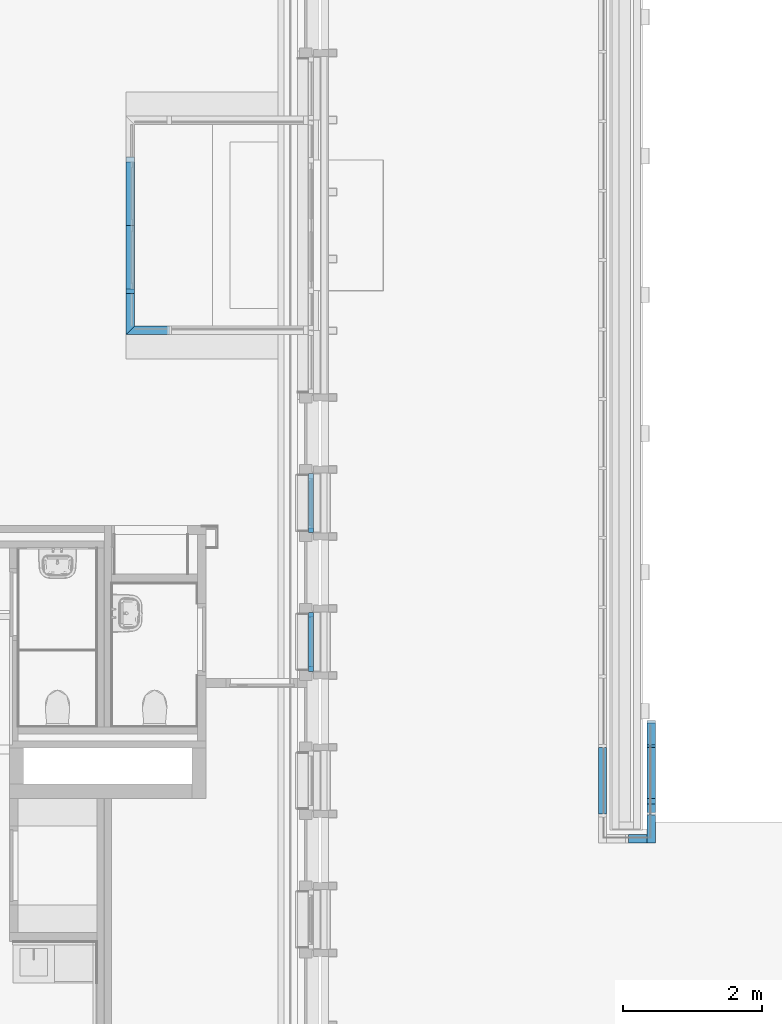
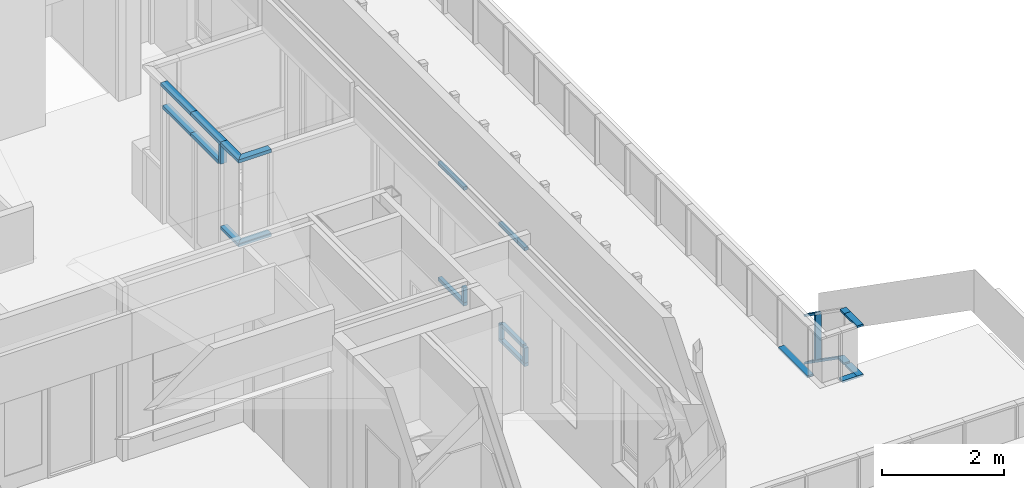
# One storey, part 11 of 118: 27 members, 8 elements without a shape of their own.
"""IFC2X3 building model written with IfcOpenShell, lengths in millimetres."""

from ifc_helpers import new_model, entity, si_unit, converted_unit, derived_unit, direction, frame, origin, origin_2d_with_axis, place, context, subcontext, project, spatial, rectangle, extrude, clip, halfspace, source, transform, mapped, material, material_list, type_object, type_shapes, element, aggregate, save


model = new_model("IFC2X3")

# Units and contexts
model_context = context("Model", 3, precision=0.01, world=origin(), true_north=direction((6.123031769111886e-17, 1.0)))
plan_context = context("Plan", 3, precision=0.01, world=origin(), true_north=direction((6.123031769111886e-17, 1.0)))
body_context = subcontext(model_context, "Body", "Model", "MODEL_VIEW")
ifc_project = project(units=[si_unit("LENGTHUNIT", "METRE", prefix="MILLI"), si_unit("AREAUNIT", "SQUARE_METRE"), si_unit("VOLUMEUNIT", "CUBIC_METRE"), converted_unit("PLANEANGLEUNIT", "DEGREE", entity("IfcRatioMeasure", 0.017453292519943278), si_unit("PLANEANGLEUNIT", "RADIAN"), dimensions=[0, 0, 0, 0, 0, 0, 0]), si_unit("MASSUNIT", "GRAM", prefix="KILO"), derived_unit("MASSDENSITYUNIT", [(si_unit("MASSUNIT", "GRAM", prefix="KILO"), 1), (si_unit("LENGTHUNIT", "METRE"), -3)]), derived_unit("IONCONCENTRATIONUNIT", [(si_unit("MASSUNIT", "GRAM", prefix="KILO"), 1), (si_unit("LENGTHUNIT", "METRE"), -3)]), derived_unit("MOMENTOFINERTIAUNIT", [(si_unit("LENGTHUNIT", "METRE"), 4)]), si_unit("TIMEUNIT", "SECOND"), si_unit("FREQUENCYUNIT", "HERTZ"), si_unit("THERMODYNAMICTEMPERATUREUNIT", "DEGREE_CELSIUS"), derived_unit("THERMALTRANSMITTANCEUNIT", [(si_unit("MASSUNIT", "GRAM", prefix="KILO"), 1), (si_unit("THERMODYNAMICTEMPERATUREUNIT", "KELVIN"), -1), (si_unit("TIMEUNIT", "SECOND"), -3)]), derived_unit("THERMALCONDUCTANCEUNIT", [(si_unit("MASSUNIT", "GRAM", prefix="KILO"), 1), (si_unit("THERMODYNAMICTEMPERATUREUNIT", "KELVIN"), -1), (si_unit("TIMEUNIT", "SECOND"), -3), (si_unit("LENGTHUNIT", "METRE"), 1)]), derived_unit("VOLUMETRICFLOWRATEUNIT", [(si_unit("LENGTHUNIT", "METRE"), 3), (si_unit("TIMEUNIT", "SECOND"), -1)]), derived_unit("MASSFLOWRATEUNIT", [(si_unit("MASSUNIT", "GRAM", prefix="KILO"), 1), (si_unit("TIMEUNIT", "SECOND"), -1)]), derived_unit("ROTATIONALFREQUENCYUNIT", [(si_unit("TIMEUNIT", "SECOND"), -1)]), si_unit("ELECTRICCURRENTUNIT", "AMPERE"), si_unit("ELECTRICVOLTAGEUNIT", "VOLT"), si_unit("POWERUNIT", "WATT"), si_unit("FORCEUNIT", "NEWTON", prefix="KILO"), si_unit("ILLUMINANCEUNIT", "LUX"), si_unit("LUMINOUSFLUXUNIT", "LUMEN"), si_unit("LUMINOUSINTENSITYUNIT", "CANDELA"), derived_unit("USERDEFINED", [(si_unit("MASSUNIT", "GRAM", prefix="KILO"), -1), (si_unit("LENGTHUNIT", "METRE"), -2), (si_unit("TIMEUNIT", "SECOND"), 3), (si_unit("LUMINOUSFLUXUNIT", "LUMEN"), 1)]), derived_unit("USERDEFINED", [(si_unit("MASSUNIT", "GRAM", prefix="KILO"), 1), (si_unit("TIMEUNIT", "SECOND"), -3), (si_unit("LENGTHUNIT", "METRE"), 3), (si_unit("ELECTRICCURRENTUNIT", "AMPERE"), -2)]), derived_unit("SOUNDPOWERUNIT", [(si_unit("MASSUNIT", "GRAM", prefix="KILO"), 1), (si_unit("TIMEUNIT", "SECOND"), -3), (si_unit("LENGTHUNIT", "METRE"), 2)]), derived_unit("SOUNDPRESSUREUNIT", [(si_unit("MASSUNIT", "GRAM", prefix="KILO"), 1), (si_unit("LENGTHUNIT", "METRE"), -1), (si_unit("TIMEUNIT", "SECOND"), -2)]), derived_unit("LINEARVELOCITYUNIT", [(si_unit("LENGTHUNIT", "METRE"), 1), (si_unit("TIMEUNIT", "SECOND"), -1)]), si_unit("PRESSUREUNIT", "PASCAL"), derived_unit("USERDEFINED", [(si_unit("MASSUNIT", "GRAM", prefix="KILO"), 1), (si_unit("LENGTHUNIT", "METRE"), -2), (si_unit("TIMEUNIT", "SECOND"), -2)]), derived_unit("LINEARFORCEUNIT", [(si_unit("MASSUNIT", "GRAM", prefix="KILO"), 1), (si_unit("TIMEUNIT", "SECOND"), -2)]), derived_unit("PLANARFORCEUNIT", [(si_unit("MASSUNIT", "GRAM", prefix="KILO"), 1), (si_unit("LENGTHUNIT", "METRE"), -1), (si_unit("TIMEUNIT", "SECOND"), -2)]), derived_unit("SPECIFICHEATCAPACITYUNIT", [(si_unit("THERMODYNAMICTEMPERATUREUNIT", "KELVIN"), -1), (si_unit("LENGTHUNIT", "METRE"), 2), (si_unit("TIMEUNIT", "SECOND"), -2)]), derived_unit("HEATINGVALUEUNIT", [(si_unit("LENGTHUNIT", "METRE"), 2), (si_unit("TIMEUNIT", "SECOND"), -2)]), derived_unit("VAPORPERMEABILITYUNIT", [(si_unit("LENGTHUNIT", "METRE"), -1), (si_unit("TIMEUNIT", "SECOND"), 1)]), derived_unit("DYNAMICVISCOSITYUNIT", [(si_unit("MASSUNIT", "GRAM", prefix="KILO"), 1), (si_unit("TIMEUNIT", "SECOND"), -1), (si_unit("LENGTHUNIT", "METRE"), -1)]), derived_unit("THERMALEXPANSIONCOEFFICIENTUNIT", [(si_unit("THERMODYNAMICTEMPERATUREUNIT", "KELVIN"), -1)]), derived_unit("MODULUSOFELASTICITYUNIT", [(si_unit("MASSUNIT", "GRAM", prefix="KILO"), 1), (si_unit("LENGTHUNIT", "METRE"), -1), (si_unit("TIMEUNIT", "SECOND"), -2)]), derived_unit("ISOTHERMALMOISTURECAPACITYUNIT", [(si_unit("LENGTHUNIT", "METRE"), 3), (si_unit("MASSUNIT", "GRAM", prefix="KILO"), -1)]), derived_unit("MOISTUREDIFFUSIVITYUNIT", [(si_unit("TIMEUNIT", "SECOND"), -1), (si_unit("LENGTHUNIT", "METRE"), 2)])], contexts=[model_context, plan_context])

# Site, building, storey
site_placement = place(None, origin())
site = spatial("IfcSite", under=ifc_project, at=site_placement, Name="Locatie", CompositionType="ELEMENT")
building_placement = place(site_placement, origin())
building = spatial("IfcBuilding", under=site, at=building_placement, Name="Bouwwerk", CompositionType="ELEMENT")
storey_placement = place(building_placement, frame((0.0, 0.0, 7800.0)))
storey = spatial("IfcBuildingStorey", under=building, at=storey_placement, Name="02 tweede verdieping", CompositionType="ELEMENT", Elevation=7800.000000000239)

# Curtain wall, member
curtain_wall_type_1 = type_object("IfcCurtainWallType", Name="Curtain Wall:NLRS_21_CW_Ontwerpkozijn_aluminium_RT72", PredefinedType="NOTDEFINED")
curtain_wall_1_placement = place(storey_placement, frame((0.0, 0.0, -7800.0)))
curtain_wall_1 = element("IfcCurtainWall", 1, at=curtain_wall_1_placement, inside=storey, type_object=curtain_wall_type_1, Name="Curtain Wall:NLRS_21_CW_Ontwerpkozijn_aluminium_RT72", ObjectType="Curtain Wall:NLRS_21_CW_Ontwerpkozijn_aluminium_RT72")
ifc_material_1 = material(Name="a_kozijn")
ifc_material_2 = material(Name="<Unnamed>")
ifc_material_list = material_list([ifc_material_2, ifc_material_1])
member_type_1 = type_object("IfcMemberType", Name="Rectangular Mullion:RT72_Vb_raam", PredefinedType="MULLION", material=ifc_material_list)
shared_shape_1 = source(origin(), body_context, "Body", "SweptSolid", [
    extrude(rectangle(XDim=71.99999999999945, YDim=68.00000000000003, at=origin_2d_with_axis()), frame((-34.0, -36.0, -850.0), z_axis=(0.0, 0.0, 1.0), x_axis=(0.0, -1.0, 0.0)), (0.0, 0.0, 1.0), 850.0000000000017),
])
type_shapes(member_type_1, [shared_shape_1])
member_1_placement = place(curtain_wall_1_placement, frame((34753.0, 15775.0, 10863.0), z_axis=(0.0, -1.0, 0.0), x_axis=(0.0, 0.0, 1.0)))
member_1 = element("IfcMember", 2, at=member_1_placement, type_object=member_type_1, material=ifc_material_1, Name="Rectangular Mullion:RT72_Vb_raam", ObjectType="Rectangular Mullion:RT72_Vb_raam", context=body_context, shape_type="MappedRepresentation", body=[
    mapped(shared_shape_1, transform((0.0, 0.0, 0.0), scale=1.0)),
])

curtain_wall_2_placement = place(storey_placement, frame((0.0, 0.0, -7800.0)))
curtain_wall_2 = element("IfcCurtainWall", 3, at=curtain_wall_2_placement, inside=storey, type_object=curtain_wall_type_1, Name="Curtain Wall:NLRS_21_CW_Ontwerpkozijn_aluminium_RT72", ObjectType="Curtain Wall:NLRS_21_CW_Ontwerpkozijn_aluminium_RT72")
member_2_placement = place(curtain_wall_2_placement, frame((34753.0, 17775.0, 10863.0), z_axis=(0.0, -1.0, 0.0), x_axis=(0.0, 0.0, 1.0)))
member_2 = element("IfcMember", 4, at=member_2_placement, type_object=member_type_1, material=ifc_material_1, Name="Rectangular Mullion:RT72_Vb_raam", ObjectType="Rectangular Mullion:RT72_Vb_raam", context=body_context, shape_type="MappedRepresentation", body=[
    mapped(shared_shape_1, transform((0.0, 0.0, 0.0), scale=1.0)),
])

# Member
member_type_2 = type_object("IfcMemberType", Name="Rectangular Mullion:RT72_Vo_raam", PredefinedType="MULLION", material=ifc_material_list)
shared_shape_2 = source(origin(), body_context, "Body", "SweptSolid", [
    extrude(rectangle(XDim=71.99999999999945, YDim=68.00000000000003, at=origin_2d_with_axis()), frame((-34.0, -36.0, -850.0), z_axis=(0.0, 0.0, 1.0), x_axis=(0.0, -1.0, 0.0)), (0.0, 0.0, 1.0), 850.0000000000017),
])
type_shapes(member_type_2, [shared_shape_2])
member_3_placement = place(curtain_wall_1_placement, frame((34753.0, 16625.0, 8473.0), z_axis=(0.0, 1.0, 0.0), x_axis=(0.0, 0.0, -1.0)))
member_3 = element("IfcMember", 5, at=member_3_placement, type_object=member_type_2, material=ifc_material_1, Name="Rectangular Mullion:RT72_Vo_raam", ObjectType="Rectangular Mullion:RT72_Vo_raam", context=body_context, shape_type="MappedRepresentation", body=[
    mapped(shared_shape_2, transform((0.0, 0.0, 0.0), scale=1.0)),
])

member_4_placement = place(curtain_wall_2_placement, frame((34753.0, 18625.0, 8473.0), z_axis=(0.0, 1.0, 0.0), x_axis=(0.0, 0.0, -1.0)))
member_4 = element("IfcMember", 6, at=member_4_placement, type_object=member_type_2, material=ifc_material_1, Name="Rectangular Mullion:RT72_Vo_raam", ObjectType="Rectangular Mullion:RT72_Vo_raam", context=body_context, shape_type="MappedRepresentation", body=[
    mapped(shared_shape_2, transform((0.0, 0.0, 0.0), scale=1.0)),
])

member_type_3 = type_object("IfcMemberType", Name="Rectangular Mullion:RT72_Hl_raam", PredefinedType="MULLION", material=ifc_material_list)
shared_shape_3 = source(origin(), body_context, "Body", "SweptSolid", [
    extrude(rectangle(XDim=71.99999999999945, YDim=68.00000000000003, at=origin_2d_with_axis()), frame((-34.0, -36.0, -301.0), z_axis=(0.0, 0.0, 1.0), x_axis=(0.0, -1.0, 0.0)), (0.0, 0.0, 1.0), 301.00000000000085),
])
type_shapes(member_type_3, [shared_shape_3])
member_5_placement = place(curtain_wall_1_placement, frame((34753.0, 15775.0, 8541.0), z_axis=(0.0, 0.0, -1.0), x_axis=(0.0, -1.0, 0.0)))
member_5 = element("IfcMember", 7, at=member_5_placement, type_object=member_type_3, material=ifc_material_1, Name="Rectangular Mullion:RT72_Hl_raam", ObjectType="Rectangular Mullion:RT72_Hl_raam", context=body_context, shape_type="MappedRepresentation", body=[
    mapped(shared_shape_3, transform((0.0, 0.0, 0.0), scale=1.0)),
])

member_6_placement = place(curtain_wall_2_placement, frame((34753.0, 17775.0, 8541.0), z_axis=(0.0, 0.0, -1.0), x_axis=(0.0, -1.0, 0.0)))
member_6 = element("IfcMember", 8, at=member_6_placement, type_object=member_type_3, material=ifc_material_1, Name="Rectangular Mullion:RT72_Hl_raam", ObjectType="Rectangular Mullion:RT72_Hl_raam", context=body_context, shape_type="MappedRepresentation", body=[
    mapped(shared_shape_3, transform((0.0, 0.0, 0.0), scale=1.0)),
])

aggregate(curtain_wall_2, [member_2, member_4, member_6])

member_type_4 = type_object("IfcMemberType", Name="Rectangular Mullion:RT72_Hr_raam", PredefinedType="MULLION", material=ifc_material_list)
shared_shape_4 = source(origin(), body_context, "Body", "SweptSolid", [
    extrude(rectangle(XDim=71.99999999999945, YDim=68.00000000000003, at=origin_2d_with_axis()), frame((-34.0, -36.0, -301.0), z_axis=(0.0, 0.0, 1.0), x_axis=(0.0, -1.0, 0.0)), (0.0, 0.0, 1.0), 301.00000000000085),
])
type_shapes(member_type_4, [shared_shape_4])
member_7_placement = place(curtain_wall_1_placement, frame((34753.0, 16625.0, 8842.0), z_axis=(0.0, 0.0, 1.0), x_axis=(0.0, 1.0, 0.0)))
member_7 = element("IfcMember", 9, at=member_7_placement, type_object=member_type_4, material=ifc_material_1, Name="Rectangular Mullion:RT72_Hr_raam", ObjectType="Rectangular Mullion:RT72_Hr_raam", context=body_context, shape_type="MappedRepresentation", body=[
    mapped(shared_shape_4, transform((0.0, 0.0, 0.0), scale=1.0)),
])

member_type_5 = type_object("IfcMemberType", Name="Rectangular Mullion:RT72_Vb_raam", PredefinedType="MULLION", material=ifc_material_list)
shared_shape_5 = source(origin(), body_context, "Body", "SweptSolid", [
    extrude(rectangle(XDim=71.99999999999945, YDim=68.00000000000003, at=origin_2d_with_axis()), frame((0.0, -36.0, -714.0), z_axis=(0.0, 0.0, 1.0), x_axis=(0.0, -1.0, 0.0)), (0.0, 0.0, 1.0), 714.0000000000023),
])
type_shapes(member_type_5, [shared_shape_5])
member_8_placement = place(curtain_wall_1_placement, frame((34753.0, 15843.0, 8842.0), z_axis=(0.0, -1.0, 0.0), x_axis=(0.0, 0.0, 1.0)))
member_8 = element("IfcMember", 10, at=member_8_placement, type_object=member_type_5, material=ifc_material_1, Name="Rectangular Mullion:RT72_Vb_raam", ObjectType="Rectangular Mullion:RT72_Vb_raam", context=body_context, shape_type="MappedRepresentation", body=[
    mapped(shared_shape_5, transform((0.0, 0.0, 0.0), scale=1.0)),
])

aggregate(curtain_wall_1, [member_1, member_3, member_5, member_7, member_8])

# Curtain wall, members
curtain_wall_type_2 = type_object("IfcCurtainWallType", Name="Curtain Wall:32_ontwerpkozijn binnen 125*67", PredefinedType="NOTDEFINED")
curtain_wall_3_placement = place(storey_placement, frame((0.0, 0.0, -7800.0)))
curtain_wall_3 = element("IfcCurtainWall", 11, at=curtain_wall_3_placement, inside=storey, type_object=curtain_wall_type_2, Name="Curtain Wall:32_ontwerpkozijn binnen 125*67", ObjectType="Curtain Wall:32_ontwerpkozijn binnen 125*67")
ifc_material_3 = material(Name="RAL 9010 - wit")
member_type_6 = type_object("IfcMemberType", Name="Rectangular Mullion:67x125", PredefinedType="MULLION", material=ifc_material_3)
shared_shape_6 = source(origin(), body_context, "Body", "SweptSolid", [
    extrude(rectangle(XDim=125.00000000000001, YDim=67.0, at=origin_2d_with_axis()), frame((-33.5, 62.50000000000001, -983.0), z_axis=(0.0, 0.0, 1.0), x_axis=(0.0, -1.0, 0.0)), (0.0, 0.0, 1.0), 983.0000000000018),
])
type_shapes(member_type_6, [shared_shape_6])
member_9_placement = place(curtain_wall_3_placement, frame((32250.0, 21217.0, 10600.0), z_axis=(0.0, -1.0, 0.0), x_axis=(0.0, 0.0, 1.0)))
member_9 = element("IfcMember", 12, at=member_9_placement, type_object=member_type_6, material=ifc_material_3, Name="Rectangular Mullion:67x125", ObjectType="Rectangular Mullion:67x125", context=body_context, shape_type="MappedRepresentation", body=[
    mapped(shared_shape_6, transform((0.0, 0.0, 0.0), scale=1.0)),
])
member_type_7 = type_object("IfcMemberType", Name="Rectangular Mullion:67x125", PredefinedType="MULLION", material=ifc_material_3)
shared_shape_7 = source(origin(), body_context, "Body", "SweptSolid", [
    extrude(rectangle(XDim=125.00000000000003, YDim=67.0, at=origin_2d_with_axis()), frame((-33.5, 62.500000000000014, -983.0), z_axis=(0.0, 0.0, 1.0), x_axis=(0.0, -1.0, 0.0)), (0.0, 0.0, 1.0), 983.0000000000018),
])
type_shapes(member_type_7, [shared_shape_7])
member_10_placement = place(curtain_wall_3_placement, frame((32250.0, 22200.0, 10600.0), z_axis=(0.0, -1.0, 0.0), x_axis=(0.0, 0.0, 1.0)))
member_10 = element("IfcMember", 13, at=member_10_placement, type_object=member_type_7, material=ifc_material_3, Name="Rectangular Mullion:67x125", ObjectType="Rectangular Mullion:67x125", context=body_context, shape_type="MappedRepresentation", body=[
    mapped(shared_shape_7, transform((0.0, 0.0, 0.0), scale=1.0)),
])
member_type_8 = type_object("IfcMemberType", Name="Rectangular Mullion:67x125", PredefinedType="MULLION", material=ifc_material_3)
shared_shape_8 = source(origin(), body_context, "Body", "SweptSolid", [
    extrude(rectangle(XDim=125.00000000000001, YDim=67.0, at=origin_2d_with_axis()), frame((-33.5, 62.50000000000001, -379.50000000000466), z_axis=(0.0, 0.0, 1.0), x_axis=(0.0, -1.0, 0.0)), (0.0, 0.0, 1.0), 379.50000000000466),
])
type_shapes(member_type_8, [shared_shape_8])
member_11_placement = place(curtain_wall_3_placement, frame((32250.0, 21217.0, 10153.499999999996), z_axis=(0.0, 0.0, -1.0), x_axis=(0.0, -1.0, 0.0)))
member_11 = element("IfcMember", 14, at=member_11_placement, type_object=member_type_8, material=ifc_material_3, Name="Rectangular Mullion:67x125", ObjectType="Rectangular Mullion:67x125", context=body_context, shape_type="MappedRepresentation", body=[
    mapped(shared_shape_8, transform((0.0, 0.0, 0.0), scale=1.0)),
])
member_type_9 = type_object("IfcMemberType", Name="Rectangular Mullion:67x125", PredefinedType="MULLION", material=ifc_material_3)
shared_shape_9 = source(origin(), body_context, "Body", "SweptSolid", [
    extrude(rectangle(XDim=125.00000000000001, YDim=67.0, at=origin_2d_with_axis()), frame((0.0, 62.50000000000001, -916.0), z_axis=(0.0, 0.0, 1.0), x_axis=(0.0, -1.0, 0.0)), (0.0, 0.0, 1.0), 916.0000000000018),
])
type_shapes(member_type_9, [shared_shape_9])
member_12_placement = place(curtain_wall_3_placement, frame((32250.0, 22200.0, 10153.499999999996), z_axis=(0.0, -1.0, 0.0), x_axis=(0.0, 0.0, 1.0)))
member_12 = element("IfcMember", 15, at=member_12_placement, type_object=member_type_9, material=ifc_material_3, Name="Rectangular Mullion:67x125", ObjectType="Rectangular Mullion:67x125", context=body_context, shape_type="MappedRepresentation", body=[
    mapped(shared_shape_9, transform((0.0, 0.0, 0.0), scale=1.0)),
])
member_type_10 = type_object("IfcMemberType", Name="Rectangular Mullion:67x125", PredefinedType="MULLION", material=ifc_material_3)
shared_shape_10 = source(origin(), body_context, "Body", "SweptSolid", [
    extrude(rectangle(XDim=125.00000000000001, YDim=67.0, at=origin_2d_with_axis()), frame((0.0, 62.50000000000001, -916.0), z_axis=(0.0, 0.0, 1.0), x_axis=(0.0, -1.0, 0.0)), (0.0, 0.0, 1.0), 916.0000000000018),
])
type_shapes(member_type_10, [shared_shape_10])
member_13_placement = place(curtain_wall_3_placement, frame((32250.0, 21284.0, 10153.499999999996), z_axis=(0.0, -1.0, 0.0), x_axis=(0.0, 0.0, 1.0)))
member_13 = element("IfcMember", 16, at=member_13_placement, type_object=member_type_10, material=ifc_material_3, Name="Rectangular Mullion:67x125", ObjectType="Rectangular Mullion:67x125", context=body_context, shape_type="MappedRepresentation", body=[
    mapped(shared_shape_10, transform((0.0, 0.0, 0.0), scale=1.0)),
])
aggregate(curtain_wall_3, [member_9, member_10, member_11, member_12, member_13])

curtain_wall_4_placement = place(storey_placement, frame((0.0, 0.0, -7800.0)))
curtain_wall_4 = element("IfcCurtainWall", 17, at=curtain_wall_4_placement, inside=storey, type_object=curtain_wall_type_2, Name="Curtain Wall:32_ontwerpkozijn binnen 125*67", ObjectType="Curtain Wall:32_ontwerpkozijn binnen 125*67")
member_type_11 = type_object("IfcMemberType", Name="Rectangular Mullion:67x125", PredefinedType="MULLION", material=ifc_material_3)
shared_shape_11 = source(origin(), body_context, "Body", "SweptSolid", [
    clip(extrude(rectangle(XDim=125.00000000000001, YDim=67.0, at=origin_2d_with_axis()), frame((-33.5, -62.50000000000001, -592.0), z_axis=(0.0, 0.0, 1.0), x_axis=(0.0, -1.0, 0.0)), (0.0, 0.0, 1.0), 592.0000000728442), halfspace(frame((-304.8, 0.0, -467.0), z_axis=(0.0, 0.7071067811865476, -0.7071067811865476), x_axis=(0.0, 0.7071067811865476, 0.7071067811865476)), False)),
])
type_shapes(member_type_11, [shared_shape_11])
member_14_placement = place(curtain_wall_4_placement, frame((32250.0, 21217.0, 10600.0), z_axis=(0.0, 1.0, 0.0), x_axis=(0.0, 0.0, 1.0)))
member_14 = element("IfcMember", 18, at=member_14_placement, type_object=member_type_11, material=ifc_material_3, Name="Rectangular Mullion:67x125", ObjectType="Rectangular Mullion:67x125", context=body_context, shape_type="MappedRepresentation", body=[
    mapped(shared_shape_11, transform((0.0, 0.0, 0.0), scale=1.0)),
])
member_type_12 = type_object("IfcMemberType", Name="Rectangular Mullion:67x125", PredefinedType="MULLION", material=ifc_material_3)
shared_shape_12 = source(origin(), body_context, "Body", "SweptSolid", [
    clip(extrude(rectangle(XDim=125.00000000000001, YDim=67.0, at=origin_2d_with_axis()), frame((-33.5, -62.50000000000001, -467.0), z_axis=(0.0, 0.0, 1.0), x_axis=(0.0, -1.0, 0.0)), (0.0, 0.0, 1.0), 592.0000000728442), halfspace(frame((-304.8, 0.0, 0.0), z_axis=(0.0, 0.7071067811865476, 0.7071067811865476), x_axis=(0.0, 0.7071067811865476, -0.7071067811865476)), False)),
])
type_shapes(member_type_12, [shared_shape_12])
member_15_placement = place(curtain_wall_4_placement, frame((32250.0, 20750.0, 8850.0), z_axis=(0.0, -1.0, 0.0), x_axis=(0.0, 0.0, -1.0)))
member_15 = element("IfcMember", 19, at=member_15_placement, type_object=member_type_12, material=ifc_material_3, Name="Rectangular Mullion:67x125", ObjectType="Rectangular Mullion:67x125", context=body_context, shape_type="MappedRepresentation", body=[
    mapped(shared_shape_12, transform((0.0, 0.0, 0.0), scale=1.0)),
])
aggregate(curtain_wall_4, [member_14, member_15])

curtain_wall_5_placement = place(storey_placement, frame((0.0, 0.0, -7800.0)))
curtain_wall_5 = element("IfcCurtainWall", 20, at=curtain_wall_5_placement, inside=storey, type_object=curtain_wall_type_2, Name="Curtain Wall:32_ontwerpkozijn binnen 125*67", ObjectType="Curtain Wall:32_ontwerpkozijn binnen 125*67")
member_type_13 = type_object("IfcMemberType", Name="Rectangular Mullion:67x125", PredefinedType="MULLION", material=ifc_material_3)
shared_shape_13 = source(origin(), body_context, "Body", "SweptSolid", [
    clip(extrude(rectangle(XDim=125.00000000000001, YDim=67.0, at=origin_2d_with_axis()), frame((-33.5, -62.50000000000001, -500.4999999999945), z_axis=(0.0, 0.0, 1.0), x_axis=(0.0, -1.0, 0.0)), (0.0, 0.0, 1.0), 625.4999999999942), halfspace(frame((-304.8, 0.0, 0.0), z_axis=(0.0, 0.7071067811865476, 0.7071067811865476), x_axis=(0.0, 0.7071067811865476, -0.7071067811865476)), False)),
])
type_shapes(member_type_13, [shared_shape_13])
member_16_placement = place(curtain_wall_5_placement, frame((32250.0, 20750.0, 10600.0), z_axis=(-1.0, 0.0, 0.0), x_axis=(0.0, 0.0, 1.0)))
member_16 = element("IfcMember", 21, at=member_16_placement, type_object=member_type_13, material=ifc_material_3, Name="Rectangular Mullion:67x125", ObjectType="Rectangular Mullion:67x125", context=body_context, shape_type="MappedRepresentation", body=[
    mapped(shared_shape_13, transform((0.0, 0.0, 0.0), scale=1.0)),
])
member_type_14 = type_object("IfcMemberType", Name="Rectangular Mullion:67x125", PredefinedType="MULLION", material=ifc_material_3)
shared_shape_14 = source(origin(), body_context, "Body", "SweptSolid", [
    clip(extrude(rectangle(XDim=125.00000000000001, YDim=67.0, at=origin_2d_with_axis()), frame((-33.5, -62.50000000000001, -625.4999999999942), z_axis=(0.0, 0.0, 1.0), x_axis=(0.0, -1.0, 0.0)), (0.0, 0.0, 1.0), 625.4999999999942), halfspace(frame((-304.8, 0.0, -500.4999999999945), z_axis=(0.0, 0.7071067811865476, -0.7071067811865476), x_axis=(0.0, 0.7071067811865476, 0.7071067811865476)), False)),
])
type_shapes(member_type_14, [shared_shape_14])
member_17_placement = place(curtain_wall_5_placement, frame((32750.500000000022, 20750.0, 8850.0), z_axis=(1.0, 0.0, 0.0), x_axis=(0.0, 0.0, -1.0)))
member_17 = element("IfcMember", 22, at=member_17_placement, type_object=member_type_14, material=ifc_material_3, Name="Rectangular Mullion:67x125", ObjectType="Rectangular Mullion:67x125", context=body_context, shape_type="MappedRepresentation", body=[
    mapped(shared_shape_14, transform((0.0, 0.0, 0.0), scale=1.0)),
])
aggregate(curtain_wall_5, [member_16, member_17])

# Curtain wall, member
curtain_wall_type_3 = type_object("IfcCurtainWallType", Name="Curtain Wall:railing 120x40", PredefinedType="NOTDEFINED")
curtain_wall_6_placement = place(storey_placement, frame((0.0, 0.0, -7800.0)))
curtain_wall_6 = element("IfcCurtainWall", 23, at=curtain_wall_6_placement, inside=storey, type_object=curtain_wall_type_3, Name="Curtain Wall:railing 120x40", ObjectType="Curtain Wall:railing 120x40")
ifc_material_4 = material(Name="staal")
member_type_15 = type_object("IfcMemberType", Name="Rectangular Mullion:40x120 railing", PredefinedType="MULLION", material=ifc_material_4)
shared_shape_15 = source(origin(), body_context, "Body", "SweptSolid", [
    extrude(rectangle(XDim=120.0, YDim=40.0, at=origin_2d_with_axis()), frame((-20.0, 0.0, -960.0), z_axis=(0.0, 0.0, 1.0), x_axis=(0.0, -1.0, 0.0)), (0.0, 0.0, 1.0), 959.9999999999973),
])
type_shapes(member_type_15, [shared_shape_15])
member_18_placement = place(curtain_wall_6_placement, frame((38990.0, 13720.0, 8033.0), z_axis=(0.0, -1.0, 0.0), x_axis=(0.0, 0.0, -1.0)))
member_18 = element("IfcMember", 24, at=member_18_placement, type_object=member_type_15, material=ifc_material_4, Name="Rectangular Mullion:40x120 railing", ObjectType="Rectangular Mullion:40x120 railing", context=body_context, shape_type="MappedRepresentation", body=[
    mapped(shared_shape_15, transform((0.0, 0.0, 0.0), scale=1.0)),
])
aggregate(curtain_wall_6, [member_18])

# Curtain wall, members
curtain_wall_7_placement = place(storey_placement, frame((0.0, 0.0, -7800.0)))
curtain_wall_7 = element("IfcCurtainWall", 25, at=curtain_wall_7_placement, inside=storey, type_object=curtain_wall_type_3, Name="Curtain Wall:railing 120x40", ObjectType="Curtain Wall:railing 120x40")
member_type_16 = type_object("IfcMemberType", Name="Rectangular Mullion:40x120 railing", PredefinedType="MULLION", material=ifc_material_4)
shared_shape_16 = source(origin(), body_context, "Body", "SweptSolid", [
    extrude(rectangle(XDim=120.0, YDim=40.0, at=origin_2d_with_axis()), frame((-20.0, 0.0, -415.0), z_axis=(0.0, 0.0, 1.0), x_axis=(0.0, -1.0, 0.0)), (0.0, 0.0, 1.0), 414.9999999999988),
])
type_shapes(member_type_16, [shared_shape_16])
member_19_placement = place(curtain_wall_7_placement, frame((39694.57048249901, 13305.0, 9080.0), z_axis=(0.0, -1.0, 0.0), x_axis=(0.0, 0.0, 1.0)))
member_19 = element("IfcMember", 26, at=member_19_placement, type_object=member_type_16, material=ifc_material_4, Name="Rectangular Mullion:40x120 railing", ObjectType="Rectangular Mullion:40x120 railing", context=body_context, shape_type="MappedRepresentation", body=[
    mapped(shared_shape_16, transform((0.0, 0.0, 0.0), scale=1.0)),
])
member_type_17 = type_object("IfcMemberType", Name="Rectangular Mullion:40x120 railing", PredefinedType="MULLION", material=ifc_material_4)
shared_shape_17 = source(origin(), body_context, "Body", "SweptSolid", [
    clip(extrude(rectangle(XDim=120.0, YDim=40.0, at=origin_2d_with_axis()), frame((-20.0, 0.0, -192.0678533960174), z_axis=(0.0, 0.0, 1.0), x_axis=(0.0, -1.0, 0.0)), (0.0, 0.0, 1.0), 204.6524040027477), halfspace(frame((0.0, 304.8, 0.0), z_axis=(0.30011138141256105, 0.0, 0.953904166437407), x_axis=(0.953904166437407, 0.0, -0.30011138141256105)), False)),
])
type_shapes(member_type_17, [shared_shape_17])
member_20_placement = place(curtain_wall_7_placement, frame((39694.57048249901, 13932.067853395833, 8033.0), z_axis=(0.0, 1.0, 0.0), x_axis=(0.0, 0.0, -1.0)))
member_20 = element("IfcMember", 27, at=member_20_placement, type_object=member_type_17, material=ifc_material_4, Name="Rectangular Mullion:40x120 railing", ObjectType="Rectangular Mullion:40x120 railing", context=body_context, shape_type="MappedRepresentation", body=[
    mapped(shared_shape_17, transform((0.0, 0.0, 0.0), scale=1.0)),
])
member_type_18 = type_object("IfcMemberType", Name="Rectangular Mullion:40x120 railing", PredefinedType="MULLION", material=ifc_material_4)
shared_shape_18 = source(origin(), body_context, "Body", "SweptSolid", [
    clip(extrude(rectangle(XDim=120.0, YDim=40.0, at=origin_2d_with_axis()), frame((-20.0, 0.0, -145.0), z_axis=(0.0, 0.0, 1.0), x_axis=(0.0, -1.0, 0.0)), (0.0, 0.0, 1.0), 145.00000000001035), halfspace(frame((0.0, -304.8, -145.0), z_axis=(-0.300111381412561, 0.0, -0.953904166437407), x_axis=(-0.953904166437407, 0.0, 0.300111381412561)), False)),
])
type_shapes(member_type_18, [shared_shape_18])
member_21_placement = place(curtain_wall_7_placement, frame((39694.57048249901, 13720.0, 9080.0), z_axis=(0.0, -1.0, 0.0), x_axis=(0.0, 0.0, 1.0)))
member_21 = element("IfcMember", 28, at=member_21_placement, type_object=member_type_18, material=ifc_material_4, Name="Rectangular Mullion:40x120 railing", ObjectType="Rectangular Mullion:40x120 railing", context=body_context, shape_type="MappedRepresentation", body=[
    mapped(shared_shape_18, transform((0.0, 0.0, 0.0), scale=1.0)),
])
member_type_19 = type_object("IfcMemberType", Name="Rectangular Mullion:40x120 railing", PredefinedType="MULLION", material=ifc_material_4)
shared_shape_19 = source(origin(), body_context, "Body", "SweptSolid", [
    extrude(rectangle(XDim=120.0, YDim=40.0, at=origin_2d_with_axis()), frame((-20.0, 0.0, -395.0), z_axis=(0.0, 0.0, 1.0), x_axis=(0.0, -1.0, 0.0)), (0.0, 0.0, 1.0), 394.999999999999),
])
type_shapes(member_type_19, [shared_shape_19])
member_22_placement = place(curtain_wall_7_placement, frame((39694.57048249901, 13700.0, 8033.0), z_axis=(0.0, 1.0, 0.0), x_axis=(0.0, 0.0, -1.0)))
member_22 = element("IfcMember", 29, at=member_22_placement, type_object=member_type_19, material=ifc_material_4, Name="Rectangular Mullion:40x120 railing", ObjectType="Rectangular Mullion:40x120 railing", context=body_context, shape_type="MappedRepresentation", body=[
    mapped(shared_shape_19, transform((0.0, 0.0, 0.0), scale=1.0)),
])
member_type_20 = type_object("IfcMemberType", Name="Rectangular Mullion:40x120 railing", PredefinedType="MULLION", material=ifc_material_4)
shared_shape_20 = source(origin(), body_context, "Body", "SweptSolid", [
    clip(clip(extrude(rectangle(XDim=120.0, YDim=40.0, at=origin_2d_with_axis()), frame((0.0, 0.0, -965.3416453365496), z_axis=(0.0, 0.0, 1.0), x_axis=(0.0, -1.0, 0.0)), (0.0, 0.0, 1.0), 930.5202366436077), halfspace(frame((22.902199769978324, 60.0, -967.3684013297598), z_axis=(-0.5725549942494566, 0.0, -0.819866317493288), x_axis=(-0.819866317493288, 0.0, 0.5725549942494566)), False)), halfspace(frame((-22.902199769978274, 60.0, -32.794652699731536), z_axis=(0.5725549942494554, 0.0, 0.8198663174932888), x_axis=(0.8198663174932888, 0.0, -0.5725549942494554)), False)),
])
type_shapes(member_type_20, [shared_shape_20])
member_23_placement = place(curtain_wall_7_placement, frame((39694.57048249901, 14700.0, 7496.713319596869), z_axis=(0.0, 0.0, -1.0), x_axis=(0.0, -1.0, 0.0)))
member_23 = element("IfcMember", 30, at=member_23_placement, type_object=member_type_20, material=ifc_material_4, Name="Rectangular Mullion:40x120 railing", ObjectType="Rectangular Mullion:40x120 railing", context=body_context, shape_type="MappedRepresentation", body=[
    mapped(shared_shape_20, transform((0.0, 0.0, 0.0), scale=1.0)),
])
member_type_21 = type_object("IfcMemberType", Name="Rectangular Mullion:40x120 railing", PredefinedType="MULLION", material=ifc_material_4)
shared_shape_21 = source(origin(), body_context, "Body", "SweptSolid", [
    clip(extrude(rectangle(XDim=120.0, YDim=40.0, at=origin_2d_with_axis()), frame((-20.0, 0.0, -451.2930853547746), z_axis=(0.0, 0.0, 1.0), x_axis=(0.0, -1.0, 0.0)), (0.0, 0.0, 1.0), 451.2930853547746), halfspace(frame((0.0, -304.8, -451.2930853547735), z_axis=(-0.4623013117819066, 0.0, -0.8867228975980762), x_axis=(-0.8867228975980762, 0.0, 0.4623013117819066)), False)),
])
type_shapes(member_type_21, [shared_shape_21])
member_24_placement = place(curtain_wall_7_placement, frame((39694.57048249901, 14700.0, 8496.87637362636), z_axis=(0.0, -0.819866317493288, 0.5725549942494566), x_axis=(0.0, 0.5725549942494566, 0.819866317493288)))
member_24 = element("IfcMember", 31, at=member_24_placement, type_object=member_type_21, material=ifc_material_4, Name="Rectangular Mullion:40x120 railing", ObjectType="Rectangular Mullion:40x120 railing", context=body_context, shape_type="MappedRepresentation", body=[
    mapped(shared_shape_21, transform((0.0, 0.0, 0.0), scale=1.0)),
])
member_type_22 = type_object("IfcMemberType", Name="Rectangular Mullion:40x120 railing", PredefinedType="MULLION", material=ifc_material_4)
shared_shape_22 = source(origin(), body_context, "Body", "SweptSolid", [
    clip(extrude(rectangle(XDim=120.0, YDim=40.0, at=origin_2d_with_axis()), frame((-20.0, 0.0, -451.2930853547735), z_axis=(0.0, 0.0, 1.0), x_axis=(0.0, -1.0, 0.0)), (0.0, 0.0, 1.0), 451.2930853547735), halfspace(frame((0.0, -304.8, 0.0), z_axis=(-0.8867228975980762, 0.0, 0.4623013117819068), x_axis=(-0.4623013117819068, 0.0, -0.8867228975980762)), False)),
])
type_shapes(member_type_22, [shared_shape_22])
member_25_placement = place(curtain_wall_7_placement, frame((39694.57048249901, 15070.0, 7238.323209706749), z_axis=(0.0, 0.819866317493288, -0.5725549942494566), x_axis=(0.0, -0.5725549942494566, -0.819866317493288)))
member_25 = element("IfcMember", 32, at=member_25_placement, type_object=member_type_22, material=ifc_material_4, Name="Rectangular Mullion:40x120 railing", ObjectType="Rectangular Mullion:40x120 railing", context=body_context, shape_type="MappedRepresentation", body=[
    mapped(shared_shape_22, transform((0.0, 0.0, 0.0), scale=1.0)),
])
member_type_23 = type_object("IfcMemberType", Name="Rectangular Mullion:40x120 railing", PredefinedType="MULLION", material=ifc_material_4)
shared_shape_23 = source(origin(), body_context, "Body", "SweptSolid", [
    clip(extrude(rectangle(XDim=120.0, YDim=40.0, at=origin_2d_with_axis()), frame((-20.0, 0.0, -949.2398689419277), z_axis=(0.0, 0.0, 1.0), x_axis=(0.0, -1.0, 0.0)), (0.0, 0.0, 1.0), 949.2398689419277), halfspace(frame((0.0, 304.8, -936.6553183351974), z_axis=(0.3001113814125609, 0.0, -0.953904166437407), x_axis=(0.953904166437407, 0.0, 0.3001113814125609)), False)),
])
type_shapes(member_type_23, [shared_shape_23])
member_26_placement = place(curtain_wall_7_placement, frame((39694.57048249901, 14700.0, 7496.713319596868), z_axis=(0.0, 0.8198663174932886, -0.5725549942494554), x_axis=(0.0, -0.5725549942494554, -0.8198663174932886)))
member_26 = element("IfcMember", 33, at=member_26_placement, type_object=member_type_23, material=ifc_material_4, Name="Rectangular Mullion:40x120 railing", ObjectType="Rectangular Mullion:40x120 railing", context=body_context, shape_type="MappedRepresentation", body=[
    mapped(shared_shape_23, transform((0.0, 0.0, 0.0), scale=1.0)),
])
aggregate(curtain_wall_7, [member_19, member_20, member_21, member_22, member_23, member_24, member_25, member_26])

# Curtain wall, member
curtain_wall_8_placement = place(storey_placement, frame((0.0, 0.0, -7800.0)))
curtain_wall_8 = element("IfcCurtainWall", 34, at=curtain_wall_8_placement, inside=storey, type_object=curtain_wall_type_3, Name="Curtain Wall:railing 120x40", ObjectType="Curtain Wall:railing 120x40")
member_type_24 = type_object("IfcMemberType", Name="Rectangular Mullion:40x120 railing", PredefinedType="MULLION", material=ifc_material_4)
shared_shape_24 = source(origin(), body_context, "Body", "SweptSolid", [
    extrude(rectangle(XDim=120.0, YDim=40.0, at=origin_2d_with_axis()), frame((-20.0, 0.0, -272.28524124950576), z_axis=(0.0, 0.0, 1.0), x_axis=(0.0, -1.0, 0.0)), (0.0, 0.0, 1.0), 272.28524124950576),
])
type_shapes(member_type_24, [shared_shape_24])
member_27_placement = place(curtain_wall_8_placement, frame((39634.570482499, 13365.0, 8033.0), z_axis=(1.0, 0.0, 0.0), x_axis=(0.0, 0.0, -1.0)))
member_27 = element("IfcMember", 35, at=member_27_placement, type_object=member_type_24, material=ifc_material_4, Name="Rectangular Mullion:40x120 railing", ObjectType="Rectangular Mullion:40x120 railing", context=body_context, shape_type="MappedRepresentation", body=[
    mapped(shared_shape_24, transform((0.0, 0.0, 0.0), scale=1.0)),
])
aggregate(curtain_wall_8, [member_27])

save(model, "model.ifc")
